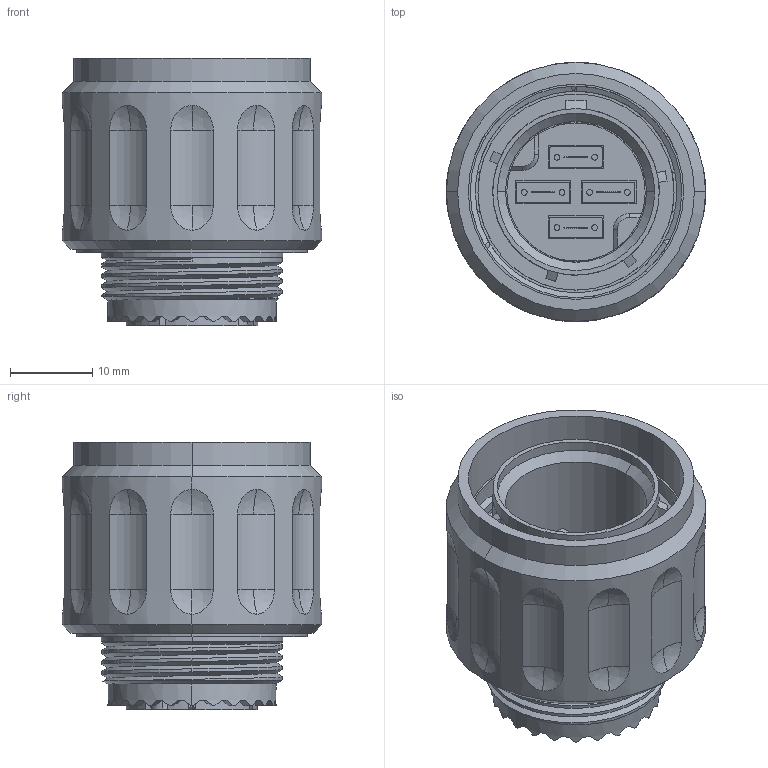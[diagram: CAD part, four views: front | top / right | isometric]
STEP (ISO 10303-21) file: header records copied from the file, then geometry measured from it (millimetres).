
FILE_DESCRIPTION (( 'STEP AP214' ), '1' );
FILE_NAME ('Q38MT-PGX-15XX-X.STEP', '2025-08-27T14:50:21', ( '' ), ( '' ), 'SwSTEP 2.0', 'SolidWorks 2024', '' );
FILE_SCHEMA (( 'AUTOMOTIVE_DESIGN' ));
Length unit declared in the file: inch
Products named in the file (1): Q38MT-PGX-15XX-X
Bounding box: 31.52 x 31.52 x 32.56 mm (x, y, z)
Volume: 13284.8 mm3; surface area: 9788.3 mm2
Topology: 1 solids, 3 shells, 777 faces, 2028 edges, 1317 vertices
Faces by surface type: plane 388, cylinder 281, cone 52, sphere 48, bspline 8
Entity records: 25777 total; most frequent: CARTESIAN_POINT 6812, ORIENTED_EDGE 4044, DIRECTION 4013, EDGE_CURVE 2022, AXIS2_PLACEMENT_3D 1576, VERTEX_POINT 1317, EDGE_LOOP 895, VECTOR 861
